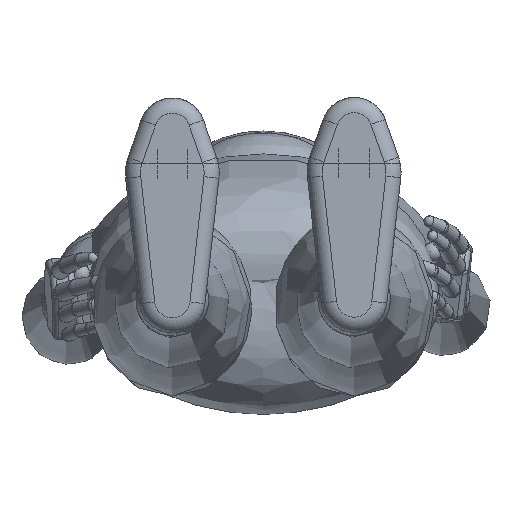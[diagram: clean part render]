
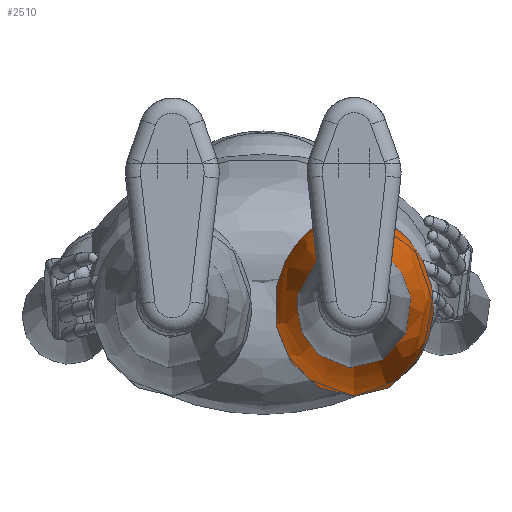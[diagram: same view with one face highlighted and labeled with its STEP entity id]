
A CAD part, front view. The second image highlights one B-rep face of the part: STEP entity #2510.
In plain terms, the highlighted free-form (B-spline) face has degree [3, 3] with [21, 4] control points.
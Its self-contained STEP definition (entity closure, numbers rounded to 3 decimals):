
#445=ELLIPSE($,#2753,32.5,30.);
#446=ELLIPSE($,#2754,55.,50.);
#578=B_SPLINE_SURFACE_WITH_KNOTS($,3,3,((#6379,#6380,#6381,#6382),(#6383,
#6384,#6385,#6386),(#6387,#6388,#6389,#6390),(#6391,#6392,#6393,#6394),
(#6395,#6396,#6397,#6398),(#6399,#6400,#6401,#6402),(#6403,#6404,#6405,
#6406),(#6407,#6408,#6409,#6410),(#6411,#6412,#6413,#6414),(#6415,#6416,
#6417,#6418),(#6419,#6420,#6421,#6422),(#6423,#6424,#6425,#6426),(#6427,
#6428,#6429,#6430),(#6431,#6432,#6433,#6434),(#6435,#6436,#6437,#6438),
(#6439,#6440,#6441,#6442),(#6443,#6444,#6445,#6446),(#6447,#6448,#6449,
#6450),(#6451,#6452,#6453,#6454),(#6455,#6456,#6457,#6458),(#6459,#6460,
#6461,#6462)),.UNSPECIFIED.,.T.,.F.,.F.,(4,1,1,1,1,1,1,1,1,1,1,1,1,1,1,
1,1,1,4),(4,4),(0.,0.071,0.143,
0.19,0.238,0.286,0.333,
0.381,0.429,0.476,0.524,
0.571,0.619,0.667,0.714,
0.786,0.857,0.929,1.),(0.,1.),
 .UNSPECIFIED.);
#685=B_SPLINE_CURVE_WITH_KNOTS($,3,(#6463,#6464,#6465,#6466,#6467,#6468),
 .UNSPECIFIED.,.F.,.F.,(4,2,4),(0.,0.493,1.),.UNSPECIFIED.);
#750=FACE_OUTER_BOUND($,#920,.T.);
#920=EDGE_LOOP($,(#1871,#1872,#1873,#1874));
#1266=VERTEX_POINT($,#6261);
#1268=VERTEX_POINT($,#6372);
#1493=EDGE_CURVE($,#1266,#1266,#445,.T.);
#1495=EDGE_CURVE($,#1268,#1268,#446,.T.);
#1497=EDGE_CURVE($,#1268,#1266,#685,.T.);
#1871=ORIENTED_EDGE($,*,*,#1495,.T.);
#1872=ORIENTED_EDGE($,*,*,#1497,.T.);
#1873=ORIENTED_EDGE($,*,*,#1493,.F.);
#1874=ORIENTED_EDGE($,*,*,#1497,.F.);
#2510=ADVANCED_FACE($,(#750),#578,.T.);
#2753=AXIS2_PLACEMENT_3D($,#6262,#3183,#3184);
#2754=AXIS2_PLACEMENT_3D($,#6373,#3185,#3186);
#3183=DIRECTION('center_axis',(0.,-1.,0.));
#3184=DIRECTION('ref_axis',(0.,0.,1.));
#3185=DIRECTION('center_axis',(0.,-1.,0.));
#3186=DIRECTION('ref_axis',(0.,0.,1.));
#6261=CARTESIAN_POINT('',(0.,-200.,-30.5));
#6262=CARTESIAN_POINT('Origin',(0.,-200.,2.));
#6372=CARTESIAN_POINT('',(0.,0.,-55.));
#6373=CARTESIAN_POINT('Origin',(0.,0.,0.));
#6379=CARTESIAN_POINT('Ctrl Pts',(0.,0.,-55.003));
#6380=CARTESIAN_POINT('Ctrl Pts',(0.,-68.515,
-72.949));
#6381=CARTESIAN_POINT('Ctrl Pts',(0.,-135.182,
-64.781));
#6382=CARTESIAN_POINT('Ctrl Pts',(0.,-200.,-30.502));
#6383=CARTESIAN_POINT('Ctrl Pts',(7.479,0.,-55.003));
#6384=CARTESIAN_POINT('Ctrl Pts',(8.549,-68.515,-72.949));
#6385=CARTESIAN_POINT('Ctrl Pts',(7.551,-135.182,-64.782));
#6386=CARTESIAN_POINT('Ctrl Pts',(4.487,-200.,-30.502));
#6387=CARTESIAN_POINT('Ctrl Pts',(22.439,0.,-51.249));
#6388=CARTESIAN_POINT('Ctrl Pts',(25.648,-68.515,-68.47));
#6389=CARTESIAN_POINT('Ctrl Pts',(22.656,-135.182,-60.814));
#6390=CARTESIAN_POINT('Ctrl Pts',(13.463,-200.,-28.284));
#6391=CARTESIAN_POINT('Ctrl Pts',(38.425,0.,-37.216));
#6392=CARTESIAN_POINT('Ctrl Pts',(43.921,-68.515,-51.724));
#6393=CARTESIAN_POINT('Ctrl Pts',(38.798,-135.182,-45.983));
#6394=CARTESIAN_POINT('Ctrl Pts',(23.055,-200.,-19.991));
#6395=CARTESIAN_POINT('Ctrl Pts',(47.242,0.,-20.394));
#6396=CARTESIAN_POINT('Ctrl Pts',(53.999,-68.515,-31.651));
#6397=CARTESIAN_POINT('Ctrl Pts',(47.699,-135.182,-28.204));
#6398=CARTESIAN_POINT('Ctrl Pts',(28.345,-200.,-10.051));
#6399=CARTESIAN_POINT('Ctrl Pts',(50.611,0.,-4.173));
#6400=CARTESIAN_POINT('Ctrl Pts',(57.849,-68.515,-12.296));
#6401=CARTESIAN_POINT('Ctrl Pts',(51.102,-135.182,-11.06));
#6402=CARTESIAN_POINT('Ctrl Pts',(30.366,-200.,-0.466));
#6403=CARTESIAN_POINT('Ctrl Pts',(49.479,0.,12.423));
#6404=CARTESIAN_POINT('Ctrl Pts',(56.555,-68.515,7.508));
#6405=CARTESIAN_POINT('Ctrl Pts',(49.958,-135.182,6.48));
#6406=CARTESIAN_POINT('Ctrl Pts',(29.687,-200.,9.341));
#6407=CARTESIAN_POINT('Ctrl Pts',(43.953,0.,27.914));
#6408=CARTESIAN_POINT('Ctrl Pts',(50.239,-68.515,25.992));
#6409=CARTESIAN_POINT('Ctrl Pts',(44.379,-135.182,22.852));
#6410=CARTESIAN_POINT('Ctrl Pts',(26.372,-200.,18.495));
#6411=CARTESIAN_POINT('Ctrl Pts',(34.519,0.,40.923));
#6412=CARTESIAN_POINT('Ctrl Pts',(39.456,-68.515,41.516));
#6413=CARTESIAN_POINT('Ctrl Pts',(34.854,-135.182,36.602));
#6414=CARTESIAN_POINT('Ctrl Pts',(20.712,-200.,26.182));
#6415=CARTESIAN_POINT('Ctrl Pts',(22.021,0.,50.3));
#6416=CARTESIAN_POINT('Ctrl Pts',(25.17,-68.515,52.704));
#6417=CARTESIAN_POINT('Ctrl Pts',(22.234,-135.182,46.511));
#6418=CARTESIAN_POINT('Ctrl Pts',(13.213,-200.,31.723));
#6419=CARTESIAN_POINT('Ctrl Pts',(7.564,0.,55.203));
#6420=CARTESIAN_POINT('Ctrl Pts',(8.646,-68.515,58.554));
#6421=CARTESIAN_POINT('Ctrl Pts',(7.637,-135.182,51.694));
#6422=CARTESIAN_POINT('Ctrl Pts',(4.538,-200.,34.62));
#6423=CARTESIAN_POINT('Ctrl Pts',(-7.565,0.,55.205));
#6424=CARTESIAN_POINT('Ctrl Pts',(-8.646,-68.515,58.557));
#6425=CARTESIAN_POINT('Ctrl Pts',(-7.638,-135.182,51.695));
#6426=CARTESIAN_POINT('Ctrl Pts',(-4.539,-200.,34.621));
#6427=CARTESIAN_POINT('Ctrl Pts',(-22.02,0.,50.298));
#6428=CARTESIAN_POINT('Ctrl Pts',(-25.169,-68.515,52.702));
#6429=CARTESIAN_POINT('Ctrl Pts',(-22.233,-135.182,46.51));
#6430=CARTESIAN_POINT('Ctrl Pts',(-13.212,-200.,31.722));
#6431=CARTESIAN_POINT('Ctrl Pts',(-34.523,0.,40.925));
#6432=CARTESIAN_POINT('Ctrl Pts',(-39.46,-68.515,41.518));
#6433=CARTESIAN_POINT('Ctrl Pts',(-34.857,-135.182,36.604));
#6434=CARTESIAN_POINT('Ctrl Pts',(-20.714,-200.,26.183));
#6435=CARTESIAN_POINT('Ctrl Pts',(-43.949,0.,27.913));
#6436=CARTESIAN_POINT('Ctrl Pts',(-50.235,-68.515,25.991));
#6437=CARTESIAN_POINT('Ctrl Pts',(-44.375,-135.182,22.851));
#6438=CARTESIAN_POINT('Ctrl Pts',(-26.369,-200.,18.494));
#6439=CARTESIAN_POINT('Ctrl Pts',(-50.409,0.,9.842));
#6440=CARTESIAN_POINT('Ctrl Pts',(-57.619,-68.515,4.428));
#6441=CARTESIAN_POINT('Ctrl Pts',(-50.898,-135.182,3.753));
#6442=CARTESIAN_POINT('Ctrl Pts',(-30.246,-200.,7.816));
#6443=CARTESIAN_POINT('Ctrl Pts',(-50.416,0.,-12.656));
#6444=CARTESIAN_POINT('Ctrl Pts',(-57.626,-68.515,-22.418));
#6445=CARTESIAN_POINT('Ctrl Pts',(-50.904,-135.182,-20.026));
#6446=CARTESIAN_POINT('Ctrl Pts',(-30.249,-200.,-5.479));
#6447=CARTESIAN_POINT('Ctrl Pts',(-40.428,0.,-35.465));
#6448=CARTESIAN_POINT('Ctrl Pts',(-46.21,-68.515,-49.635));
#6449=CARTESIAN_POINT('Ctrl Pts',(-40.819,-135.182,-44.132));
#6450=CARTESIAN_POINT('Ctrl Pts',(-24.257,-200.,-18.957));
#6451=CARTESIAN_POINT('Ctrl Pts',(-22.436,0.,-51.248));
#6452=CARTESIAN_POINT('Ctrl Pts',(-25.645,-68.515,-68.468));
#6453=CARTESIAN_POINT('Ctrl Pts',(-22.654,-135.182,-60.813));
#6454=CARTESIAN_POINT('Ctrl Pts',(-13.462,-200.,-28.283));
#6455=CARTESIAN_POINT('Ctrl Pts',(-7.479,0.,-55.003));
#6456=CARTESIAN_POINT('Ctrl Pts',(-8.549,-68.515,-72.948));
#6457=CARTESIAN_POINT('Ctrl Pts',(-7.552,-135.182,-64.781));
#6458=CARTESIAN_POINT('Ctrl Pts',(-4.488,-200.,-30.502));
#6459=CARTESIAN_POINT('Ctrl Pts',(0.,0.,-55.003));
#6460=CARTESIAN_POINT('Ctrl Pts',(0.,-68.515,
-72.949));
#6461=CARTESIAN_POINT('Ctrl Pts',(0.,-135.182,
-64.781));
#6462=CARTESIAN_POINT('Ctrl Pts',(0.,-200.,-30.502));
#6463=CARTESIAN_POINT('Ctrl Pts',(0.,0.,-55.));
#6464=CARTESIAN_POINT('Ctrl Pts',(0.,-33.783,
-63.848));
#6465=CARTESIAN_POINT('Ctrl Pts',(0.,-67.116,
-66.348));
#6466=CARTESIAN_POINT('Ctrl Pts',(0.,-133.808,
-58.544));
#6467=CARTESIAN_POINT('Ctrl Pts',(0.,-167.142,
-47.877));
#6468=CARTESIAN_POINT('Ctrl Pts',(0.,-200.,-30.5));
